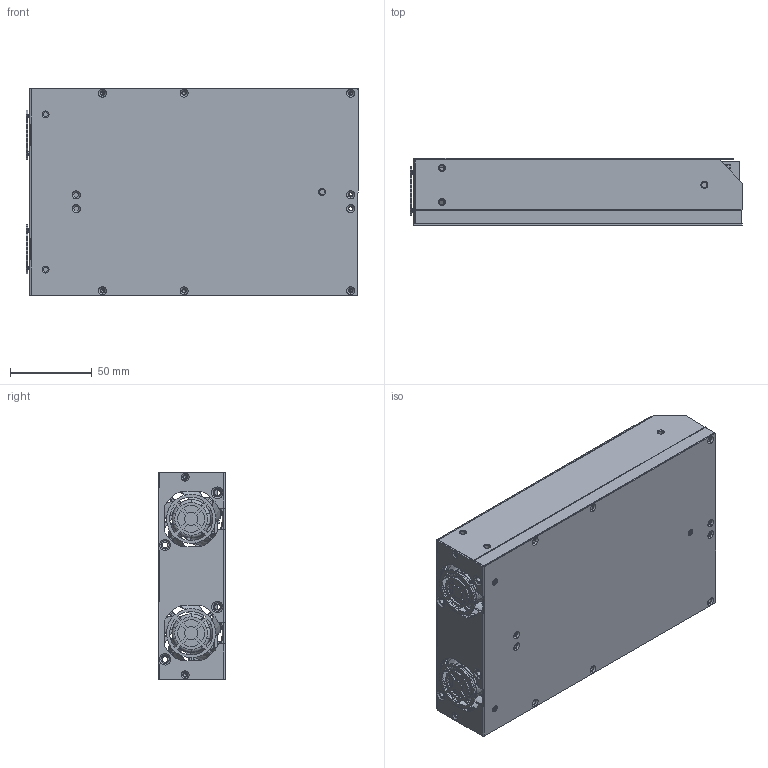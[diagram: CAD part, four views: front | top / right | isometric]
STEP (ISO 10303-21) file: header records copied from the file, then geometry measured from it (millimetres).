
FILE_DESCRIPTION (( 'STEP AP203' ), '1' );
FILE_NAME ('AZ1200-HV½á¹¹Í¼.step', '2025-01-06T03:38:21', ( 'Sadji' ), ( '' ), 'SwSTEP 2.0', 'SolidWorks 2024', '' );
FILE_SCHEMA (( 'CONFIG_CONTROL_DESIGN' ));
Length unit declared in the file: millimetre
Products named in the file (16): A-底座-支撑-AZ1200-01-V1.1; 3.81kf; AZ1200-HV结构图; AZ1U_MCU; 风扇40_20; 连接器HB9500M-9.5-3P; M-外壳-下盖-AZ1200-02-V1.2; M-散热器-AZ1200-03-V1.4; 连接器HB9500M-9.5-2P; M-外壳-上盖-AZ1200-01-V1.2; A2006WV-2x3P; AZ1200-DCHV; 连接器A2005WR-XP_10; M-散热器-AZ1200-01-V1.3; AZ1200-PFC; 表贴螺母M3_4
Assembly tree (18 placements, depth 2):
  AZ1200-HV结构图
    M-外壳-下盖-AZ1200-02-V1.2
    连接器HB9500M-9.5-2P
    3.81kf
    A2006WV-2x3P
    AZ1200-PFC
    AZ1U_MCU
    A-底座-支撑-AZ1200-01-V1.1  x2
    M-散热器-AZ1200-01-V1.3
    M-散热器-AZ1200-03-V1.4
    M-外壳-上盖-AZ1200-01-V1.2
    连接器A2005WR-XP_10
    连接器HB9500M-9.5-3P
    AZ1200-DCHV
    表贴螺母M3_4  x2
    风扇40_20  x2
Bounding box: 203.2 x 41 x 127 mm (x, y, z)
Volume: 256550.4 mm3; surface area: 257280.1 mm2
Topology: 56 solids, 56 shells, 3851 faces, 10406 edges, 6709 vertices
Faces by surface type: plane 1785, cylinder 1600, cone 232, bspline 166, torus 68
Entity records: 122191 total; most frequent: CARTESIAN_POINT 28049, ORIENTED_EDGE 19200, DIRECTION 19113, EDGE_CURVE 9600, AXIS2_PLACEMENT_3D 6624, VERTEX_POINT 6211, VECTOR 5865, LINE 5865
